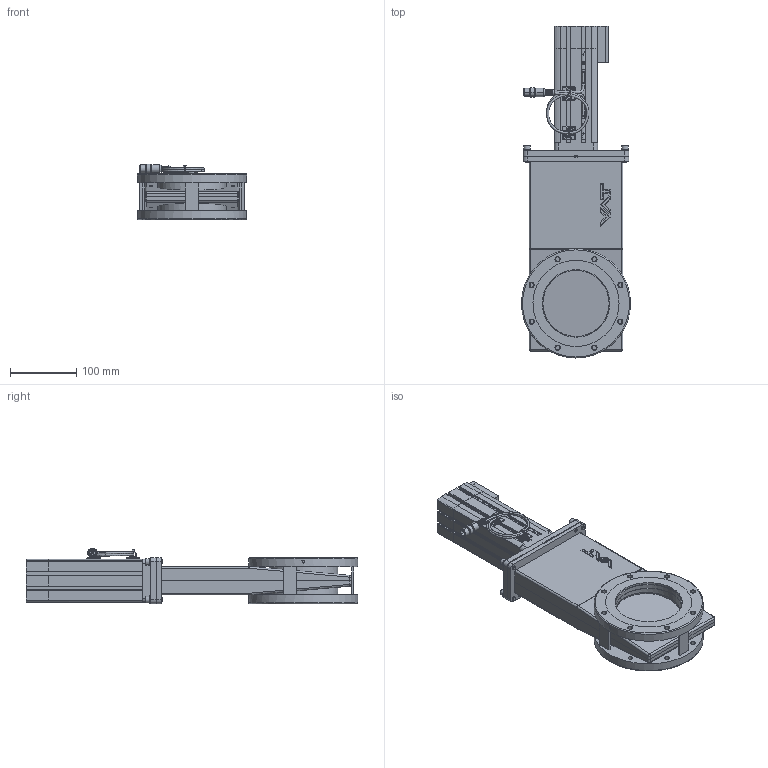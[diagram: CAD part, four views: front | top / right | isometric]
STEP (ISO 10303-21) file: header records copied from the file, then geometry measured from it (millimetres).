
FILE_DESCRIPTION(/* description */ (''),/* implementation_level */ '2;1');
FILE_NAME(/* name */ '1481889856_203.stp',/* time_stamp */ '2021-10-20T08:05:19+02:00',/* author */ (''),/* organization */ (''),/* preprocessor_version */ 'ST-DEVELOPER v16.7',/* originating_system */ 'SIEMENS PLM Software NX 1915',/* authorisation */ '');
FILE_SCHEMA (('AP203_CONFIGURATION_CONTROLLED_3D_DESIGN_OF_MECHANICAL_PARTS_AND_ASSEMBLIES_MIM_LF { 1 0 10303 403 2 1 2}'));
Length unit declared in the file: millimetre
Products named in the file (25): 251261.12_31459ID; 251260.4_31515ID; 251261.12_31460ID; 343001.1; 1041281; 589965; 408099; 990050; 487660; 411636_31528ID; 251257.9_31462ID; 251262.4; 251259.6_31449ID; 251259.6_31516ID; 251257.9_31465ID; 1085547; 984070; 218189; n-6134-408; 250214.4; 1004825_NX-ARRAGMNTOpen ohne SV; 1081830_NX-ARRAGMNTDN100, Standard v3 ; 251258.9; 251256.28; 1095392
Assembly tree (37 placements, depth 4):
  1095392
    251256.28
      251257.9_31465ID
      251259.6_31516ID
      251259.6_31449ID
      251262.4  x3
      251258.9
        251261.12_31460ID
        251260.4_31515ID
        251261.12_31459ID
      251257.9_31462ID
    250214.4
    n-6134-408  x4
    218189  x4
    1081830_NX-ARRAGMNTDN100, Standard v3 
      411636_31528ID
      487660  x2
      990050
      408099  x2
    1004825_NX-ARRAGMNTOpen ohne SV
      589965
      1041281
      343001.1  x2
    984070  x2
    1085547  x2
Bounding box: 164.8 x 501.5 x 84.4 mm (x, y, z)
Volume: 1413056.7 mm3; surface area: 551017.2 mm2
Topology: 49 solids, 50 shells, 3007 faces, 7686 edges, 4795 vertices
Faces by surface type: plane 1480, cylinder 790, bspline 274, cone 221, torus 114, sphere 68, extrusion 48, revolution 12
Full cylindrical faces by diameter (mm): 2.46 x2, 2.5 x2, 2.9 x2, 3 x4, 4 x2, 4.96 x4, 5 x11, 5.1 x2, 5.22 x4, 5.5 x2, 6 x8, 6.4 x6, 6.5 x5, 6.8 x16, 8 x3, 10 x4, 11 x5, 12 x1, 25.345 x1, 100.1 x8, 102.1 x2, 104.1 x2, 104.6 x2, 164.8 x2
Entity records: 92008 total; most frequent: CARTESIAN_POINT 23964, ORIENTED_EDGE 12272, DIRECTION 11604, EDGE_CURVE 6136, VERTEX_POINT 3997, AXIS2_PLACEMENT_3D 3939, VECTOR 3720, LINE 3672
